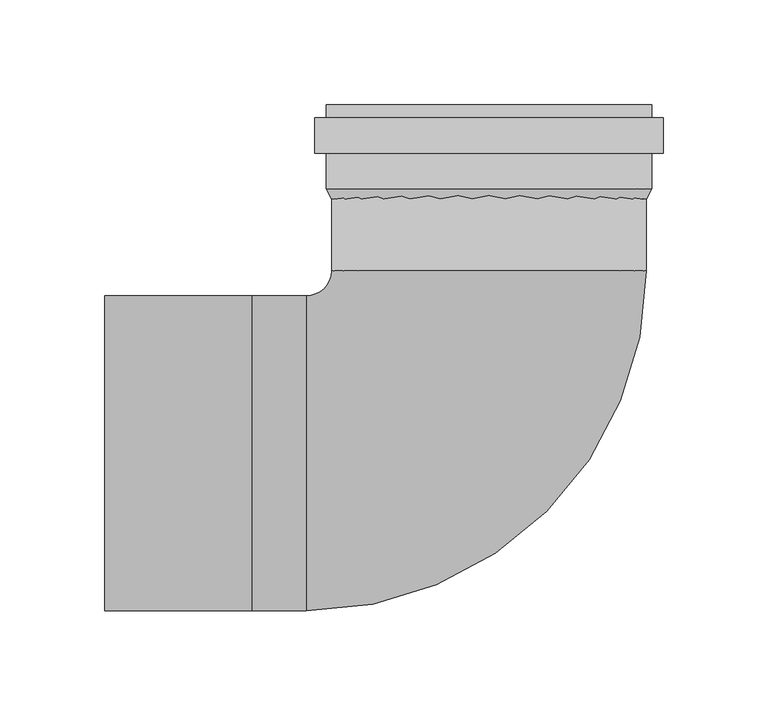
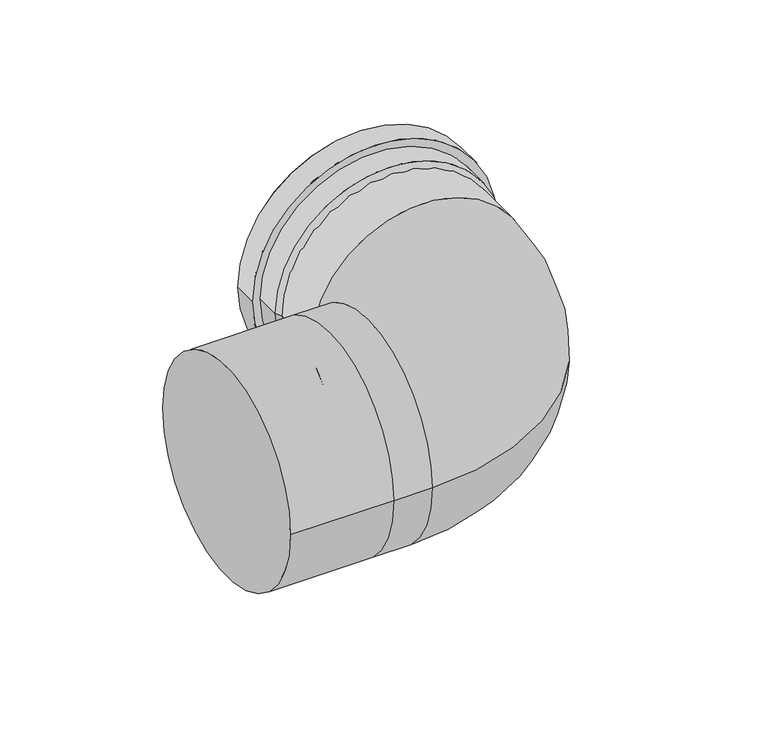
"""IFC4 building model written with IfcOpenShell, lengths in millimetres: duct fitting geometry, RSFen_DUF_UN_Twinline Bend_M&G : ø130 - 150 - 200."""

from ifc_helpers import new_model, si_unit, point, frame, origin, origin_2d, place, context, project, spatial, polyline, circle_curve, ellipse_curve, trimmed, segment, composite_curve, outline, extrude, source, transform, mapped, element, save
from ifc_brep_helpers import plane_surface, cylinder_surface, revolved_surface, advanced_brep


def duct_fitting_0e4c7d32(model_context):
    return source(origin(), model_context, "Body", "SolidModel", [
        advanced_brep(
        [(-183.0, 75.0, 0.0), (-183.0, -75.0, 0.0), (-113.0, 75.0, 0.0), (-113.0, -75.0, 0.0), (-87.0, -75.0, 0.0), (-87.0, 75.0, 0.0), (75.0, 87.0, 0.0), (-75.0, 87.0, 0.0), (75.0, 126.0, 0.0), (0.0, 126.0, 75.0), (-75.0, 126.0, 0.0), (0.0, 126.0, -75.0), (0.0, 128.0, -75.0), (0.0, 128.0, 75.0)],
        [
            (0, 1, circle_curve(frame((-183.0, 0.0, 0.0), z_axis=(-1.0, 0.0, 0.0), x_axis=(0.0, -1.0, 0.0)), 75.0)),
            (1, 0, circle_curve(frame((-183.0, 0.0, 0.0), z_axis=(-1.0, 0.0, 0.0), x_axis=(0.0, -1.0, 0.0)), 75.0)),
            (0, 2),
            (2, 3, circle_curve(frame((-113.0, 0.0, 0.0), z_axis=(-1.0, 0.0, 0.0), x_axis=(0.0, -1.0, 0.0)), 75.0)),
            (3, 1),
            (3, 2, circle_curve(frame((-113.0, 0.0, 0.0), z_axis=(-1.0, 0.0, 0.0), x_axis=(0.0, -1.0, 0.0)), 75.0)),
            (3, 4),
            (4, 5, circle_curve(frame((-87.0, 0.0, 0.0), z_axis=(-1.0, 0.0, 0.0), x_axis=(0.0, 1.0, 0.0)), 75.0)),
            (5, 2),
            (5, 4, circle_curve(frame((-87.0, 0.0, 0.0), z_axis=(-1.0, 0.0, 0.0), x_axis=(0.0, 1.0, 0.0)), 75.0)),
            (4, 6, circle_curve(frame((-87.0, 87.0, 0.0), z_axis=(0.0, 0.0, 1.0), x_axis=(0.0, -1.0, 0.0)), 162.0)),
            (6, 7, circle_curve(frame((0.0, 87.0, 0.0), z_axis=(0.0, -1.0, 0.0), x_axis=(-1.0, 0.0, 0.0)), 75.0)),
            (7, 5, circle_curve(frame((-87.0, 87.0, 0.0), z_axis=(0.0, 0.0, -1.0), x_axis=(0.0, -1.0, 0.0)), 12.0)),
            (7, 6, circle_curve(frame((0.0, 87.0, 0.0), z_axis=(0.0, -1.0, 0.0), x_axis=(-1.0, 0.0, 0.0)), 75.0)),
            (6, 8),
            (8, 9, circle_curve(frame((0.0, 126.0, 0.0), z_axis=(0.0, -1.0, 0.0), x_axis=(-1.0, 0.0, 0.0)), 75.0)),
            (9, 10, circle_curve(frame((0.0, 126.0, 0.0), z_axis=(0.0, -1.0, 0.0), x_axis=(-1.0, 0.0, 0.0)), 75.0)),
            (10, 7),
            (10, 11, circle_curve(frame((0.0, 126.0, 0.0), z_axis=(0.0, -1.0, 0.0), x_axis=(-1.0, 0.0, 0.0)), 75.0)),
            (11, 8, circle_curve(frame((0.0, 126.0, 0.0), z_axis=(0.0, -1.0, 0.0), x_axis=(-1.0, 0.0, 0.0)), 75.0)),
            (12, 13, circle_curve(frame((0.0, 128.0, 0.0), z_axis=(0.0, 1.0, 0.0), x_axis=(0.0, 0.0, 1.0)), 75.0)),
            (13, 12, circle_curve(frame((0.0, 128.0, 0.0), z_axis=(0.0, 1.0, 0.0), x_axis=(0.0, 0.0, 1.0)), 75.0)),
            (12, 11),
            (9, 13),
        ],
        [
            plane_surface(frame((-183.0, -75.0, 0.0), z_axis=(-1.0, 0.0, 0.0), x_axis=(0.0, 0.0, 1.0))),
            cylinder_surface(frame((-113.0, 0.0, 0.0), z_axis=(-1.0, 0.0, 0.0), x_axis=(0.0, -1.0, 0.0)), 75.0),
            cylinder_surface(frame((-113.0, 0.0, 0.0), z_axis=(-1.0, 0.0, 0.0), x_axis=(0.0, 1.0, 0.0)), 75.0),
            revolved_surface(trimmed(ellipse_curve(frame((-87.0, 0.0, 0.0), z_axis=(-1.0, 0.0, 0.0), x_axis=(0.0, 1.0, 0.0)), 75.0, 75.0), [point((-87.0, -75.0, 0.0))], [point((-87.0, 75.0, 0.0))], True, "CARTESIAN"), (-87.0, 87.0, 0.0), (0.0, 0.0, 1.0)),
            revolved_surface(trimmed(ellipse_curve(frame((-87.0, 0.0, 0.0), z_axis=(-1.0, 0.0, 0.0), x_axis=(0.0, 1.0, 0.0)), 75.0, 75.0), [point((-87.0, 75.0, 0.0))], [point((-87.0, -75.0, 0.0))], True, "CARTESIAN"), (-87.0, 87.0, 0.0), (0.0, 0.0, 1.0)),
            cylinder_surface(frame((0.0, 87.0, 0.0), z_axis=(0.0, -1.0, 0.0), x_axis=(-1.0, 0.0, 0.0)), 75.0),
            plane_surface(frame((0.0, 128.0, 75.0), z_axis=(0.0, 1.0, 0.0), x_axis=(1.0, 0.0, 0.0))),
            cylinder_surface(frame((0.0, 126.0, 0.0), z_axis=(0.0, 1.0, 0.0), x_axis=(0.0, 0.0, 1.0)), 75.0),
        ],
        [
            (0, [[1, 2]]),
            (1, [[-1, 3, 4, 5]]),
            (1, [[-2, -5, 6, -3]]),
            (2, [[7, 8, 9, -6]]),
            (2, [[-7, -4, -9, 10]]),
            (3, [[-8, 11, 12, 13]]),
            (4, [[-10, -13, 14, -11]]),
            (5, [[-12, 15, 16, 17, 18]]),
            (5, [[-14, -18, 19, 20, -15]]),
            (6, [[21, 22]]),
            (7, [[-21, 23, -19, -17, 24]]),
            (7, [[-22, -24, -16, -20, -23]]),
        ],
    ),
        extrude(outline(composite_curve([segment(trimmed(circle_curve(origin_2d(), 83.0), [point((0.0, 83.0))], [point((0.0, -83.0))], False, "CARTESIAN"), True, "CONTINUOUS"), segment(trimmed(circle_curve(origin_2d(), 83.0), [point((0.0, -83.0))], [point((0.0, 83.0))], False, "CARTESIAN"), True, "CONTINUOUS")], self_intersect=False), holes=[composite_curve([segment(trimmed(circle_curve(origin_2d(), 77.5), [point((0.0, -77.5))], [point((0.0, 77.5))], True, "CARTESIAN"), True, "CONTINUOUS"), segment(trimmed(circle_curve(origin_2d(), 77.5), [point((0.0, 77.5))], [point((0.0, -77.5))], True, "CARTESIAN"), True, "CONTINUOUS")], self_intersect=False)]), frame((0.0, 143.0, 0.0), z_axis=(0.0, 1.0, 0.0), x_axis=(0.0, 0.0, 1.0)), (0.0, 0.0, 1.0), 17.0),
        advanced_brep(
        [(-77.5, 126.0, 0.0), (77.5, 126.0, 0.0), (77.5, 166.0, 0.0), (-77.5, 166.0, 0.0), (-75.0, 121.0, 0.0), (75.0, 121.0, 0.0), (-75.0, 166.0, 0.0), (75.0, 166.0, 0.0)],
        [
            (0, 1, circle_curve(frame((0.0, 126.0, 0.0), z_axis=(0.0, 1.0, 0.0), x_axis=(1.0, 0.0, 0.0)), 77.5)),
            (1, 2),
            (2, 3, circle_curve(frame((0.0, 166.0, 0.0), z_axis=(0.0, -1.0, 0.0), x_axis=(1.0, 0.0, 0.0)), 77.5)),
            (3, 0),
            (4, 5, circle_curve(frame((0.0, 121.0, 0.0), z_axis=(0.0, 1.0, 0.0), x_axis=(1.0, 0.0, 0.0)), 75.0)),
            (5, 1),
            (0, 4),
            (6, 7, circle_curve(frame((0.0, 166.0, 0.0), z_axis=(0.0, 1.0, 0.0), x_axis=(1.0, 0.0, 0.0)), 75.0)),
            (7, 5),
            (4, 6),
            (2, 3, circle_curve(frame((0.0, 166.0, 0.0), z_axis=(0.0, 1.0, 0.0), x_axis=(-1.0, 0.0, 0.0)), 77.5)),
            (6, 7, circle_curve(frame((0.0, 166.0, 0.0), z_axis=(0.0, -1.0, 0.0), x_axis=(-1.0, 0.0, 0.0)), 75.0)),
            (1, 0, circle_curve(frame((0.0, 126.0, 0.0), z_axis=(0.0, 1.0, 0.0), x_axis=(-1.0, 0.0, 0.0)), 77.5)),
            (5, 4, circle_curve(frame((0.0, 121.0, 0.0), z_axis=(0.0, 1.0, 0.0), x_axis=(-1.0, 0.0, 0.0)), 75.0)),
        ],
        [
            cylinder_surface(frame((0.0, 126.0, 0.0), z_axis=(0.0, -1.0, 0.0), x_axis=(1.0, 0.0, 0.0)), 77.5),
            revolved_surface(polyline([(77.5, 126.0, 0.0), (75.0, 121.0, 0.0)]), (0.0, 126.0, 0.0), (0.0, -1.0, 0.0)),
            revolved_surface(polyline([(75.0, 121.0, 0.0), (75.0, 166.0, 0.0)]), (0.0, 126.0, 0.0), (0.0, -1.0, 0.0)),
            plane_surface(frame((0.0, 166.0, 0.0), z_axis=(0.0, 1.0, 0.0), x_axis=(-1.0, 0.0, 0.0))),
            cylinder_surface(frame((0.0, 126.0, 0.0), z_axis=(0.0, -1.0, 0.0), x_axis=(-1.0, 0.0, 0.0)), 77.5),
            revolved_surface(polyline([(-77.5, 126.0, 0.0), (-75.0, 121.0, 0.0)]), (0.0, 126.0, 0.0), (0.0, -1.0, 0.0)),
            revolved_surface(polyline([(-75.0, 121.0, 0.0), (-75.0, 166.0, 0.0)]), (0.0, 126.0, 0.0), (0.0, -1.0, 0.0)),
        ],
        [
            (0, [[1, 2, 3, 4]]),
            (1, [[5, 6, -1, 7]]),
            (2, [[8, 9, -5, 10]]),
            (3, [[11, -3], [12, -8]]),
            (4, [[13, -4, -11, -2]]),
            (5, [[14, -7, -13, -6]]),
            (6, [[-12, -10, -14, -9]]),
        ],
    ),
    ])


if __name__ == "__main__":
    model = new_model("IFC4")
    model_context = context("Model", 3, world=origin())
    ifc_project = project(units=[si_unit("LENGTHUNIT", "METRE", prefix="MILLI")], contexts=[model_context])
    site = spatial("IfcSite", under=ifc_project)
    building = spatial("IfcBuilding", under=site)
    placement = place(None, origin())
    duct_fitting_shape = duct_fitting_0e4c7d32(model_context)
    element("IfcDuctFitting", 1, ObjectType="RSFen_DUF_UN_Twinline Bend_M&G : ø130 - 150 - 200", at=placement, inside=building, context=model_context, shape_type="MappedRepresentation", body=[
        mapped(duct_fitting_shape, transform((0.0, 0.0, 0.0), x_axis=(1.0, 0.0, 0.0), y_axis=(0.0, 1.0, 0.0), z_axis=(0.0, 0.0, 1.0))),
    ])
    save(model, "model.ifc")
